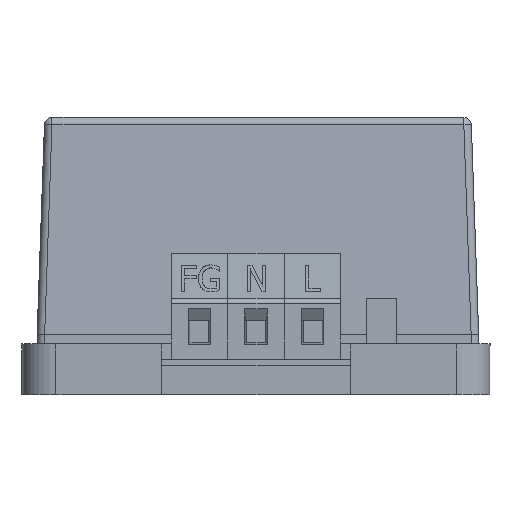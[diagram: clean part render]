
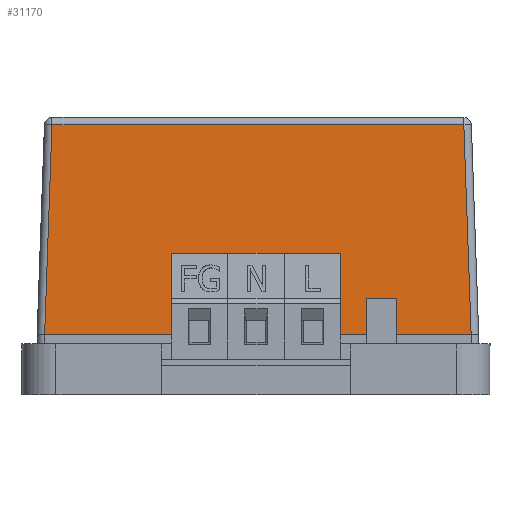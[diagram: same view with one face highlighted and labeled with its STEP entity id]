
A CAD part, left-side view. The second image highlights one B-rep face of the part: STEP entity #31170.
In plain terms, the highlighted planar face has unit normal (-0.999, 0, 0.035).
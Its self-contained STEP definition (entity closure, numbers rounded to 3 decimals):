
#30381=CARTESIAN_POINT('',(-54.5,28.251,
0.));
#30400=DIRECTION('',(0.,-1.,0.));
#30401=VECTOR('',#30400,56.501);
#30402=CARTESIAN_POINT('',(-54.5,28.251,
0.));
#30403=LINE('',#30402,#30401);
#30561=DIRECTION('',(-0.035,-0.035,-0.999));
#30562=VECTOR('',#30561,27.869);
#30563=CARTESIAN_POINT('',(-53.528,-27.279,
27.835));
#30564=LINE('',#30563,#30562);
#30568=DIRECTION('',(0.035,-0.035,0.999));
#30569=VECTOR('',#30568,27.869);
#30570=CARTESIAN_POINT('',(-54.5,28.251,
0.));
#30571=LINE('',#30570,#30569);
#30575=DIRECTION('',(0.,1.,0.));
#30576=VECTOR('',#30575,54.557);
#30577=CARTESIAN_POINT('',(-53.528,-27.279,
27.835));
#30578=LINE('',#30577,#30576);
#30901=CARTESIAN_POINT('',(-53.528,27.279,
27.835));
#30903=VERTEX_POINT('',#30901);
#30907=VERTEX_POINT('',#30381);
#30911=CARTESIAN_POINT('',(-54.5,-28.251,
0.));
#30912=VERTEX_POINT('',#30911);
#30943=CARTESIAN_POINT('',(-53.528,-27.279,
27.835));
#30944=VERTEX_POINT('',#30943);
#31158=CARTESIAN_POINT('',(-54.5,29.25,0.));
#31159=DIRECTION('',(-0.999,0.,0.035));
#31160=DIRECTION('',(0.035,0.,0.999));
#31161=AXIS2_PLACEMENT_3D('',#31158,#31159,#31160);
#31162=PLANE('',#31161);
#31164=ORIENTED_EDGE('',*,*,#31163,.F.);
#31165=ORIENTED_EDGE('',*,*,#31150,.T.);
#31166=ORIENTED_EDGE('',*,*,#31022,.F.);
#31167=ORIENTED_EDGE('',*,*,#31009,.T.);
#31168=EDGE_LOOP('',(#31164,#31165,#31166,#31167));
#31169=FACE_OUTER_BOUND('',#31168,.F.);
#31009=EDGE_CURVE('',#30907,#30903,#30571,.T.);
#31022=EDGE_CURVE('',#30907,#30912,#30403,.T.);
#31150=EDGE_CURVE('',#30944,#30912,#30564,.T.);
#31163=EDGE_CURVE('',#30944,#30903,#30578,.T.);
#31170=ADVANCED_FACE('',(#31169),#31162,.T.);
